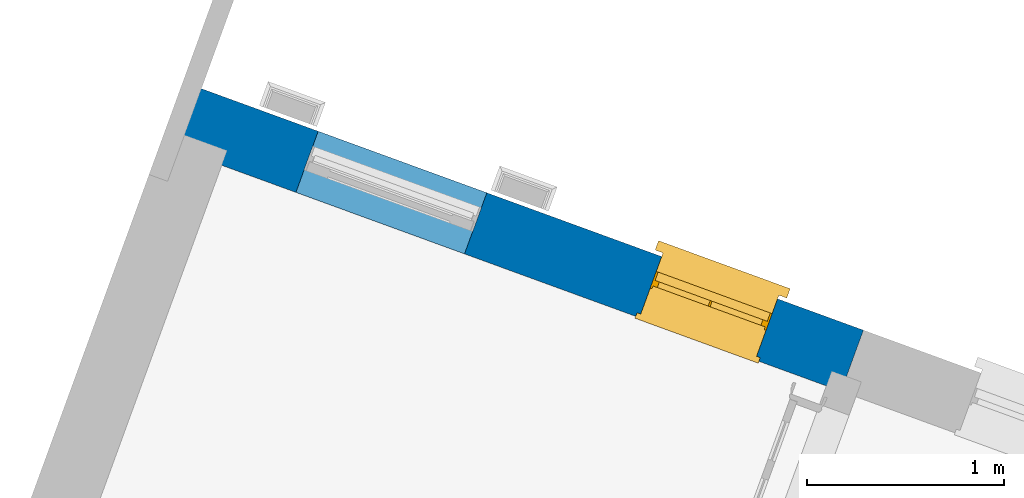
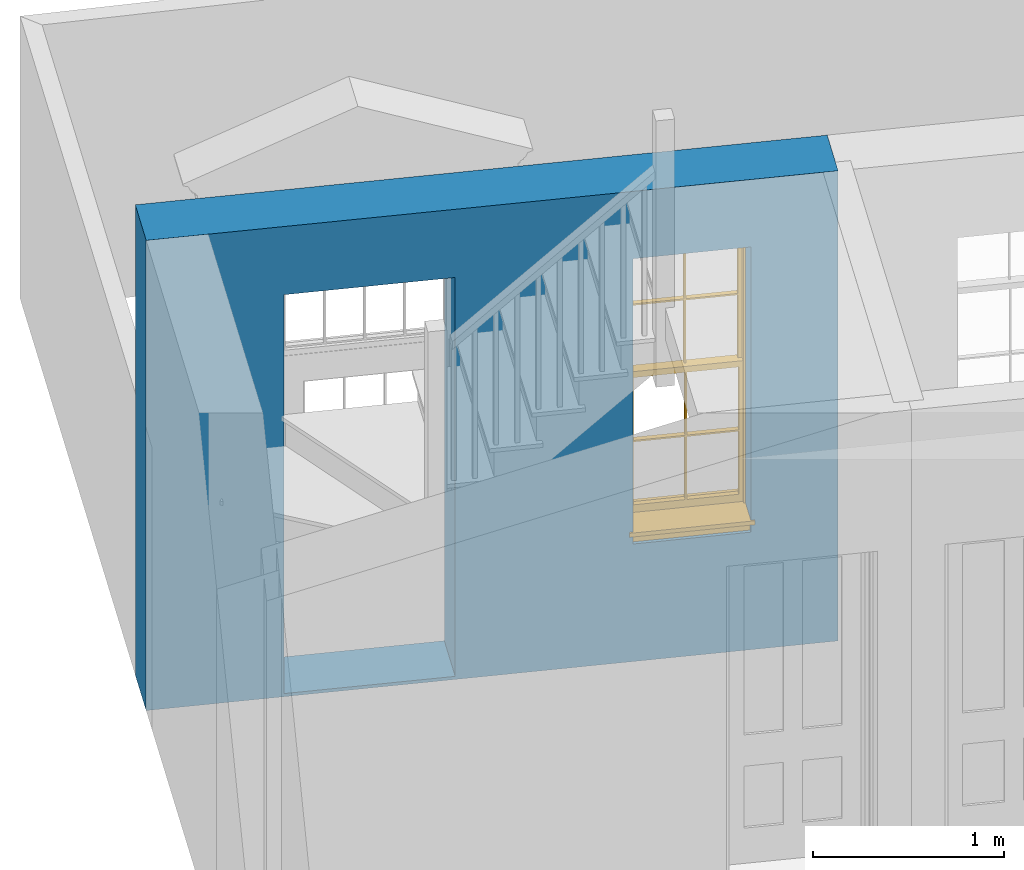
# One storey, part 3 of 6: 1 wall, 1 window, 2 openings.
"""IFC4 building model written with IfcOpenShell, lengths in metres."""

from ifc_helpers import new_model, si_unit, frame, origin, origin_with_axes, place, context, subcontext, project, spatial, polyline, outline, extrude, faceted_brep, source, transform, mapped, material, layer, layer_set, layer_usage, type_object, type_shapes, element, fill, save


model = new_model("IFC4")

# Units and contexts
model_context = context("Model", 3, world=origin_with_axes())
body_context = subcontext(model_context, "Body", "Model", "MODEL_VIEW")
ifc_project = project(units=[si_unit("PLANEANGLEUNIT", "RADIAN"), si_unit("MASSUNIT", "GRAM", prefix="KILO"), si_unit("FORCEUNIT", "NEWTON", prefix="KILO"), si_unit("LENGTHUNIT", "METRE"), si_unit("AREAUNIT", "SQUARE_METRE"), si_unit("VOLUMEUNIT", "CUBIC_METRE")], contexts=[model_context, model_context])

# Sites, building, storey
site_1_placement = place(None, origin_with_axes())
site_1 = spatial("IfcSite", under=ifc_project, at=site_1_placement, Name="Tamar")
site_2_placement = place(site_1_placement, origin_with_axes())
site_2 = spatial("IfcSite", under=site_1, at=site_2_placement, Name="Site plot-13", CompositionType="ELEMENT")
building_placement = place(None, origin_with_axes())
building = spatial("IfcBuilding", under=site_2, at=building_placement, Name="Building plot-13", CompositionType="ELEMENT")
storey_placement = place(None, frame((0.0, 0.0, 26.0), z_axis=(0.0, 0.0, 1.0), x_axis=(1.0, 0.0, 0.0)))
storey = spatial("IfcBuildingStorey", under=building, at=storey_placement, Name="plot-13 0", CompositionType="ELEMENT", Elevation=26.0)

# Wall, openings, window
ifc_material = material(Name="Masonry")
ifc_layer = layer(ifc_material, 0.33, ventilated=False)
ifc_layer_set = layer_set([ifc_layer], Name="exterior_0.08_0.25")
ifc_layer_usage = layer_usage(ifc_layer_set, "AXIS2", "POSITIVE", -0.25)
wall_type = type_object("IfcWallType", Name="exterior_0.08_0.25", PredefinedType="SOLIDWALL", material=ifc_layer_set)
wall_placement = place(storey_placement, frame((246.506990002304, 302.99955471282, 0.0), z_axis=(0.0, 0.0, 1.0), x_axis=(-0.939432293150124, 0.342734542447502, 0.0)))
wall = element("IfcWall", 1, at=wall_placement, inside=storey, type_object=wall_type, material=ifc_layer_usage, Name="exterior", context=body_context, shape_type="SweptSolid", body=[
    extrude(outline(polyline([(-6.1057689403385e-15, 0.0799999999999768), (-3.03780523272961e-15, -0.249999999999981), (3.67192076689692, -0.249999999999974), (3.67192076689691, 0.0799999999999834), (-6.1057689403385e-15, 0.0799999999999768)])), origin_with_axes(), (0.0, 0.0, 1.0), 3.0),
])
opening_1_placement = place(wall_placement, frame((0.463460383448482, 0.0, 0.75)))
opening_1 = element("IfcOpeningElement", 2, at=opening_1_placement, cuts=wall, Name="My Opening", ObjectType="Opening", context=body_context, shape_type="SweptSolid", body=[
    extrude(outline(polyline([(0.0, -0.270000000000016), (0.624999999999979, -0.270000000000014), (0.624999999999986, 1.09999999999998), (7.49400541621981e-15, 1.09999999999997), (0.0, -0.270000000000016)])), origin_with_axes(), (0.0, 0.0, 1.0), 1.82),
])
opening_2_placement = place(wall_placement, frame((2.03192076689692, 0.0, 0.0199999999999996)))
element("IfcOpeningElement", 3, at=opening_2_placement, cuts=wall, Name="My Opening", ObjectType="Opening", context=body_context, shape_type="SweptSolid", body=[
    extrude(outline(polyline([(0.0, -0.270000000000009), (0.910000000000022, -0.270000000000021), (0.91000000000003, 1.09999999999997), (7.54951656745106e-15, 1.09999999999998), (0.0, -0.270000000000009)])), origin_with_axes(), (0.0, 0.0, 1.0), 2.545),
])
window_type = type_object("IfcWindowType", Name="sash_narrow", PartitioningType="DOUBLE_PANEL_HORIZONTAL", PredefinedType="NOTDEFINED")
shared_shape = source(origin(), body_context, "Body", "Brep", [
    faceted_brep([(0.033125, 0.145, 0.975209), (0.01, 0.145, 0.975209), (0.033125, 0.145, 1.376042), (0.591875, 0.145, 0.975209), (0.591875, 0.145, 1.376042), (0.615, 0.145, 0.975209), (0.591875, 0.145, 1.386042), (0.591875, 0.145, 1.786875), (0.615, 0.145, 1.81), (0.033125, 0.145, 1.786875), (0.033125, 0.145, 1.386042), (0.01, 0.145, 1.81), (0.591875, 0.115, 1.376042), (0.591875, 0.115, 0.975209), (0.615, 0.115, 0.937083), (0.033125, 0.115, 1.786875), (0.01, 0.115, 1.81), (0.033125, 0.115, 1.386042), (0.01, 0.115, 0.937083), (0.033125, 0.115, 0.975209), (0.033125, 0.115, 1.376042), (0.591875, 0.115, 1.786875), (0.591875, 0.115, 1.386042), (0.615, 0.115, 1.81), (0.033125, 0.145, 0.937083), (0.01, 0.145, 0.937083), (0.033125, 0.145, 0.53625), (0.591875, 0.145, 0.937083), (0.591875, 0.145, 0.53625), (0.615, 0.145, 0.937083), (0.591875, 0.145, 0.52625), (0.591875, 0.145, 0.125417), (0.615, 0.145, 0.077167), (0.033125, 0.145, 0.125417), (0.033125, 0.145, 0.52625), (0.01, 0.145, 0.077167), (-0.0425, 0.0, 0.01), (-0.0425, -0.05, 0.001667), (0.0, 0.0, 0.01), (0.6675, 0.0, 0.01), (0.625, 0.0, 0.01), (0.6675, -0.05, 0.001667), (-0.02, 0.33, 0.077167), (0.0, 0.33, 0.077167), (-0.02, 0.36, 0.077167), (0.0, 0.19, 0.077167), (0.01, 0.19, 0.077167), (0.625, 0.19, 0.077167), (0.625, 0.33, 0.077167), (0.615, 0.19, 0.077167), (0.645, 0.33, 0.077167), (0.645, 0.36, 0.077167), (0.01, 0.175, 0.975209), (0.615, 0.175, 0.975209), (0.591875, 0.175, 0.125417), (0.591875, 0.175, 0.52625), (0.615, 0.175, 0.077167), (0.591875, 0.175, 0.53625), (0.591875, 0.175, 0.937083), (0.033125, 0.175, 0.125417), (0.01, 0.175, 0.077167), (0.033125, 0.175, 0.52625), (0.033125, 0.175, 0.937083), (0.033125, 0.175, 0.53625), (-0.02, 0.33, 0.052167), (-0.02, 0.36, 0.052167), (0.645, 0.36, 0.052167), (0.645, 0.33, 0.052167), (0.625, 0.33, 0.052167), (0.0, 0.33, 0.052167), (0.625, 0.1, 0.026667), (0.0, 0.1, 0.026667), (-0.0425, -0.05, -0.123333), (0.6675, -0.05, -0.123333), (-0.0425, 0.0, -0.123333), (0.6675, 0.0, -0.123333), (0.01, 0.19, 1.81), (0.615, 0.19, 1.81), (0.0, 0.19, 1.82), (0.625, 0.19, 1.82), (0.01, 0.1, 0.077167), (0.615, 0.1, 0.077167), (0.3175, 0.175, 0.53625), (0.3175, 0.145, 0.53625), (0.3175, 0.175, 0.52625), (0.3175, 0.175, 0.125417), (0.3075, 0.175, 0.125417), (0.3075, 0.175, 0.52625), (0.3075, 0.175, 0.53625), (0.3175, 0.175, 0.937083), (0.3075, 0.175, 0.937083), (0.3075, 0.145, 0.52625), (0.3075, 0.145, 0.125417), (0.3175, 0.145, 0.125417), (0.3175, 0.145, 0.52625), (0.3075, 0.145, 0.53625), (0.3075, 0.145, 0.937083), (0.3175, 0.145, 0.937083), (0.3075, 0.115, 1.386042), (0.3075, 0.115, 1.376042), (0.3175, 0.115, 1.376042), (0.3075, 0.115, 0.975209), (0.3175, 0.115, 0.975209), (0.3175, 0.115, 1.786875), (0.3075, 0.115, 1.786875), (0.3175, 0.115, 1.386042), (0.3175, 0.145, 1.386042), (0.3175, 0.145, 1.376042), (0.3075, 0.145, 1.386042), (0.3075, 0.145, 1.786875), (0.3175, 0.145, 1.786875), (0.3075, 0.145, 1.376042), (0.3175, 0.145, 0.975209), (0.3075, 0.145, 0.975209), (0.625, 0.1, 1.82), (0.615, 0.1, 1.81), (0.01, 0.1, 1.81), (0.0, 0.1, 1.82), (0.625, 0.0, 0.0), (0.0, 0.0, 0.0), (0.625, 0.33, 0.0), (0.0, 0.33, 0.0)], [[[0, 1, 2]], [[3, 4, 5]], [[6, 7, 8]], [[9, 10, 11]], [[12, 13, 14]], [[15, 16, 17]], [[18, 19, 20]], [[21, 22, 23]], [[24, 25, 26]], [[27, 28, 29]], [[30, 31, 32]], [[33, 34, 35]], [[14, 27, 29]], [[25, 24, 18]], [[36, 37, 38]], [[39, 40, 41]], [[42, 43, 44]], [[45, 46, 43]], [[47, 48, 49]], [[50, 51, 48]], [[1, 0, 52]], [[5, 53, 3]], [[54, 55, 56]], [[57, 58, 53]], [[59, 60, 61]], [[62, 63, 52]], [[48, 43, 46, 49]], [[51, 44, 43, 48]], [[64, 42, 44, 65]], [[65, 44, 51, 66]], [[66, 51, 50, 67]], [[65, 66, 68, 69]], [[60, 56, 49, 46]], [[70, 71, 38, 40]], [[37, 41, 40, 38]], [[37, 72, 73, 41]], [[74, 75, 73, 72]], [[8, 11, 76, 77]], [[76, 78, 79, 77]], [[32, 35, 80, 81]], [[81, 80, 71, 70]], [[28, 57, 82, 83]], [[84, 85, 86, 87]], [[88, 87, 61, 63]], [[89, 82, 88, 90]], [[84, 82, 57, 55]], [[91, 87, 86, 92]], [[34, 61, 87, 91]], [[93, 85, 84, 94]], [[95, 88, 63, 26]], [[96, 90, 88, 95]], [[83, 82, 89, 97]], [[94, 84, 55, 30]], [[94, 30, 28, 83]], [[94, 91, 92, 93]], [[95, 26, 34, 91]], [[97, 96, 95, 83]], [[98, 17, 20, 99]], [[100, 99, 101, 102]], [[103, 104, 98, 105]], [[100, 12, 22, 105]], [[106, 6, 4, 107]], [[106, 108, 109, 110]], [[111, 2, 10, 108]], [[112, 113, 111, 107]], [[99, 111, 113, 101]], [[20, 2, 111, 99]], [[102, 112, 107, 100]], [[98, 108, 10, 17]], [[104, 109, 108, 98]], [[105, 106, 110, 103]], [[22, 6, 106, 105]], [[100, 107, 4, 12]], [[82, 84, 87, 88]], [[83, 95, 91, 94]], [[99, 100, 105, 98]], [[107, 111, 108, 106]], [[92, 86, 59, 33]], [[15, 9, 109, 104]], [[103, 110, 7, 21]], [[31, 54, 85, 93]], [[36, 74, 72, 37]], [[39, 41, 73, 75]], [[18, 14, 102, 101]], [[23, 16, 104, 103]], [[85, 56, 60, 86]], [[52, 53, 89, 90]], [[53, 52, 113, 112]], [[11, 8, 110, 109]], [[14, 18, 96, 97]], [[2, 1, 11, 10]], [[8, 5, 4, 6]], [[57, 53, 56, 55]], [[60, 52, 63, 61]], [[26, 25, 35, 34]], [[32, 29, 28, 30]], [[14, 23, 22, 12]], [[18, 20, 17, 16]], [[19, 0, 2, 20]], [[17, 10, 9, 15]], [[12, 4, 3, 13]], [[21, 7, 6, 22]], [[27, 58, 57, 28]], [[30, 55, 54, 31]], [[33, 59, 61, 34]], [[26, 63, 62, 24]], [[5, 8, 77, 53]], [[76, 11, 1, 52]], [[46, 45, 78, 76]], [[49, 77, 79, 47]], [[70, 114, 115, 81]], [[71, 80, 116, 117]], [[19, 101, 113, 0]], [[102, 13, 3, 112]], [[90, 96, 24, 62]], [[29, 32, 81, 14]], [[80, 35, 25, 18]], [[60, 46, 76, 52]], [[77, 49, 56, 53]], [[23, 14, 81, 115]], [[16, 116, 80, 18]], [[92, 33, 35]], [[32, 31, 93]], [[32, 93, 92, 35]], [[14, 13, 102]], [[101, 19, 18]], [[103, 21, 23]], [[16, 15, 104]], [[109, 9, 11]], [[8, 7, 110]], [[23, 115, 116, 16]], [[114, 117, 116, 115]], [[90, 62, 52]], [[58, 89, 53]], [[27, 97, 89, 58]], [[85, 54, 56]], [[60, 59, 86]], [[97, 27, 14]], [[18, 24, 96]], [[52, 0, 113]], [[112, 3, 53]], [[79, 78, 117, 114]], [[78, 45, 71, 117]], [[114, 70, 47, 79]], [[118, 75, 74, 119]], [[68, 66, 67]], [[48, 68, 67, 50]], [[69, 64, 65]], [[42, 64, 69, 43]], [[69, 68, 120, 121]], [[70, 68, 48, 47]], [[118, 120, 68, 70]], [[43, 69, 71, 45]], [[69, 121, 119, 71]], [[120, 118, 119, 121]], [[38, 119, 74, 36]], [[71, 119, 38]], [[39, 75, 118, 40]], [[40, 118, 70]]]),
])
type_shapes(window_type, [shared_shape])
window_placement = place(storey_placement, frame((246.164138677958, 303.412045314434, 0.75), z_axis=(0.0, 0.0, 1.0), x_axis=(-0.587145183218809, 0.21420908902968, 0.0)))
window = element("IfcWindow", 4, at=window_placement, inside=storey, type_object=window_type, Name="circulation outside window", OverallHeight=1.82, OverallWidth=0.625, context=body_context, shape_type="MappedRepresentation", body=[
    mapped(shared_shape, transform((0.0, 0.0, 0.0), scale=1.0)),
])
fill(opening_1, window)

save(model, "model.ifc")
